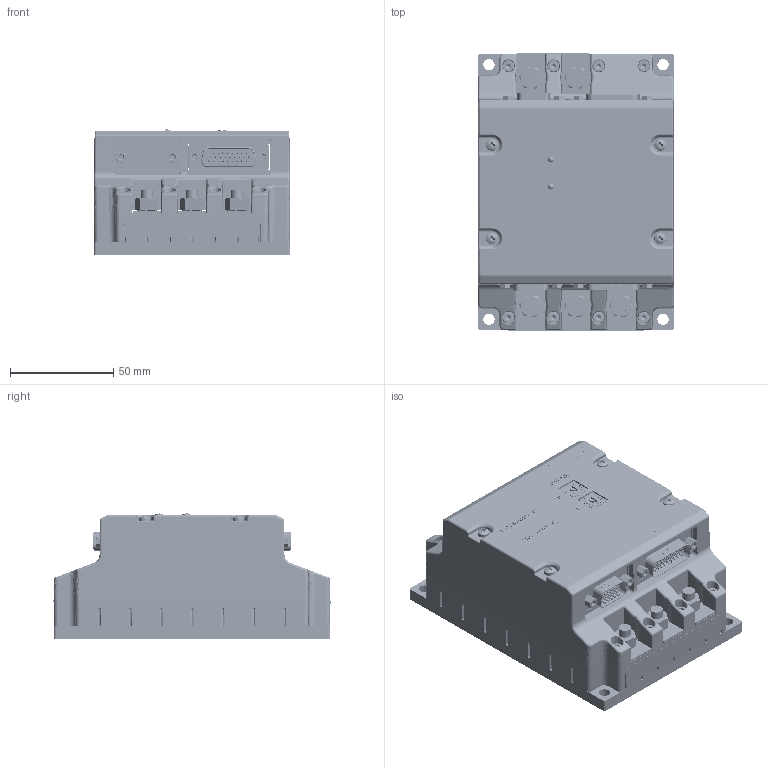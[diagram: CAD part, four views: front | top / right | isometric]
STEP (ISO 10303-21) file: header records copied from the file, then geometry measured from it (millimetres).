
FILE_DESCRIPTION (( 'STEP AP203' ), '1' );
FILE_NAME ('G DRUM ETHERCAT.STEP', '2014-03-17T08:38:32', ( 'YAEL' ), ( 'Microsoft' ), 'SwSTEP 2.0', 'SolidWorks 2013', '' );
FILE_SCHEMA (( 'CONFIG_CONTROL_DESIGN' ));
Products named in the file (1): G DRUM ETHERCAT
Bounding box: 95.25 x 134.43 x 60.8 mm (x, y, z)
Surface area: 161316.1 mm2 (no closed solid volume)
Topology: 0 solids, 215 shells, 7801 faces, 20131 edges, 12997 vertices
Faces by surface type: plane 4810, cylinder 1328, bspline 929, cone 518, torus 140, sphere 76
Full cylindrical faces by diameter (mm): 0.64 x30, 0.749 x26, 0.758 x27, 0.8 x26, 1 x30, 1.09 x26, 1.88 x15, 2.1 x10, 2.156 x6, 2.36 x2, 2.4 x2, 2.5 x8, 2.8 x2, 2.845 x6, 2.9 x1, 2.95 x2, 3 x46, 3.206 x2, 3.85 x2, 4 x2, 4.85 x2, 5 x9, 5.5 x24, 5.6 x4, 6 x10, 6.2 x5, 6.4 x5
Entity records: 270606 total; most frequent: CARTESIAN_POINT 92113, ORIENTED_EDGE 38443, DIRECTION 33171, EDGE_CURVE 19282, VERTEX_POINT 12773, LINE 12689, VECTOR 12689, AXIS2_PLACEMENT_3D 10241
